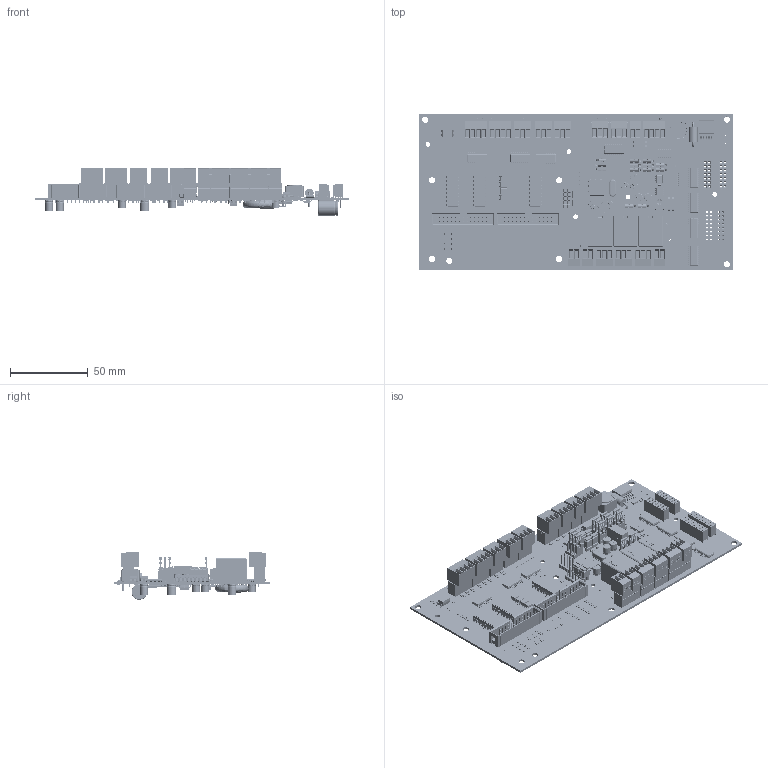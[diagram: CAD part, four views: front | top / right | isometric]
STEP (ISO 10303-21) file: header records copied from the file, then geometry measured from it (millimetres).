
FILE_DESCRIPTION(('KiCad electronic assembly'),'2;1');
FILE_NAME('C82REV5.step','2025-06-25T09:23:05',('Pcbnew'),('Kicad'), 'Open CASCADE STEP processor 7.8','KiCad to STEP converter','Unknown' );
FILE_SCHEMA(('AUTOMOTIVE_DESIGN { 1 0 10303 214 1 1 1 1 }'));
Length unit declared in the file: millimetre
Products named in the file (150): C82REV5 1; kicad_embedded_AD862F6D47FC192BDC64005F20736294; User Library-R SMD 0805_0805 BODY; User Library-R SMD 0805_0805 PAD; User Library-R SMD 0805_0805 OPIS; kicad_embedded_5FEF2CD22564A26F85696B711F59969B; SW3dPS-Jumper SL2_Kosticka SL2_Výchozí; SW3dPS-Jumper SL2_Jumper CAB4_Výchozí; SW3dPS-Jumper SL2_NuP SL2_Výchozí; kicad_embedded_8EA43BAA194690E253F3298BAA06EAAF; 74585_1; 74585_2; 74585_3; 74585_4; 74585_5; 74585_6; kicad_embedded_3D8E146F6F21D2ADB0C44165221961B8; kicad_embedded_F3B9A774BED5068450479C1DA2152A05; kicad_embedded_405B0D044F66F37DF876EF61A92FDECB; kicad_embedded_0C6AFEA2E8E102F6A822B83FF6301217; User Library-SOIC-8_SOIC-8_Body_1; User Library-SOIC-8_SOIC-8_Pins_1; kicad_embedded_DA9B8A051B943E9D63A38CFA677600C9; Fusion; SO_5; 3,5_3p; 1; 2; kicad_embedded_2F60AEC790D0D61CFF036A825674476F; 938F75B9-451A-4788-A0D5-F34CC658E3B7; kicad_embedded_04FB81F8EAAF1A24C159AA174C0BA2C6; kicad_embedded_EA46CE2289F4FFE4C32F4A8AEC067285; kicad_embedded_CE183336748713DA677C7639EA7E237B; kicad_embedded_CB47AF9AD7ABF746BC1A680EEBFF469A; kicad_embedded_7171C4D2E1E4BB40F4872D68F60A083D; User Library-DO-201AD_Cylinder; User Library-DO-201AD_Cylinder001; User Library-DO-201AD_Cylinder002; User Library-DO-201AD_Cylinder003; User Library-DO-201AD_Torus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
Assembly tree (490 placements, depth 3):
  C82REV5 1
    kicad_embedded_AD862F6D47FC192BDC64005F20736294  x189
      User Library-R SMD 0805_0805 BODY
      User Library-R SMD 0805_0805 PAD
      User Library-R SMD 0805_0805 OPIS
    kicad_embedded_5FEF2CD22564A26F85696B711F59969B  x8
      SW3dPS-Jumper SL2_Kosticka SL2_Výchozí
      SW3dPS-Jumper SL2_Jumper CAB4_Výchozí
      SW3dPS-Jumper SL2_NuP SL2_Výchozí
    kicad_embedded_8EA43BAA194690E253F3298BAA06EAAF  x13
      74585_1
      74585_2
      74585_3
      74585_4
      74585_5
      74585_6
    kicad_embedded_3D8E146F6F21D2ADB0C44165221961B8  x3
    kicad_embedded_F3B9A774BED5068450479C1DA2152A05  x8
    kicad_embedded_405B0D044F66F37DF876EF61A92FDECB  x25
    kicad_embedded_0C6AFEA2E8E102F6A822B83FF6301217  x2
      User Library-SOIC-8_SOIC-8_Body_1
      User Library-SOIC-8_SOIC-8_Pins_1
    kicad_embedded_DA9B8A051B943E9D63A38CFA677600C9  x4
      Fusion
      SO_5
    3,5_3p  x3
      1
      2
    kicad_embedded_2F60AEC790D0D61CFF036A825674476F  x6
      938F75B9-451A-4788-A0D5-F34CC658E3B7
    kicad_embedded_04FB81F8EAAF1A24C159AA174C0BA2C6  x13
    kicad_embedded_EA46CE2289F4FFE4C32F4A8AEC067285  x13
    kicad_embedded_CE183336748713DA677C7639EA7E237B  x3
    kicad_embedded_CB47AF9AD7ABF746BC1A680EEBFF469A
    kicad_embedded_7171C4D2E1E4BB40F4872D68F60A083D
      User Library-DO-201AD_Cylinder
      User Library-DO-201AD_Cylinder001
      User Library-DO-201AD_Cylinder002
      User Library-DO-201AD_Cylinder003
      User Library-DO-201AD_Torus
      User Library-DO-201AD_Cylinder004
      User Library-DO-201AD_Torus001
      User Library-DO-201AD_Cylinder005
      User Library-DO-201AD_Cylinder006
    kicad_embedded_ED2D655F53C1A26AB719A355B82CC0CF  x5
      1
      2
    kicad_embedded_A114BCE23E5E2668EFFF7367171002CD  x5
      User Library-SO-14N__X2_041A043E0440043F04430441_X0_
      User Library-SO-14N__X2_041C04350442043A0430_X0_
      User Library-SO-14N__X2_041D043E0436043A0430_X0_
    kicad_embedded_FEA525EB373F031BA6F3B6824FCF5318  x2
      User Library-RES_1206L_RES_1206_Lead_1
      User Library-RES_1206L_RES_1206_Body_1
    kicad_embedded_23AE00611FCD4F4EDF2CC775AD4DAE1D
    kicad_embedded_0223198B7386CF2864F46655656E26A9  x4
      1
      2
    kicad_embedded_C5A2804D47BECBCF3077F86D37984594  x2
      61301621821
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Bounding box: 201.93 x 100.7 x 30.64 mm (x, y, z)
Volume: 81954.5 mm3; surface area: 127322.9 mm2
Topology: 1501 solids, 1525 shells, 43083 faces, 109580 edges, 71103 vertices
Faces by surface type: plane 27512, bspline 9179, cylinder 5625, sphere 514, torus 205, cone 48
Full cylindrical faces by diameter (mm): 0.6 x2, 0.711 x20, 0.813 x32, 0.914 x52, 1 x12, 1.016 x100, 1.02 x32, 1.194 x2, 1.3 x15, 1.4 x44, 1.499 x2, 2.5 x44, 2.9 x44, 3 x5, 4 x8
Entity records: 280839 total; most frequent: CARTESIAN_POINT 53588, ORIENTED_EDGE 37790, DIRECTION 36066, EDGE_CURVE 18929, LINE 14932, VECTOR 14932, VERTEX_POINT 12225, AXIS2_PLACEMENT_3D 10567
